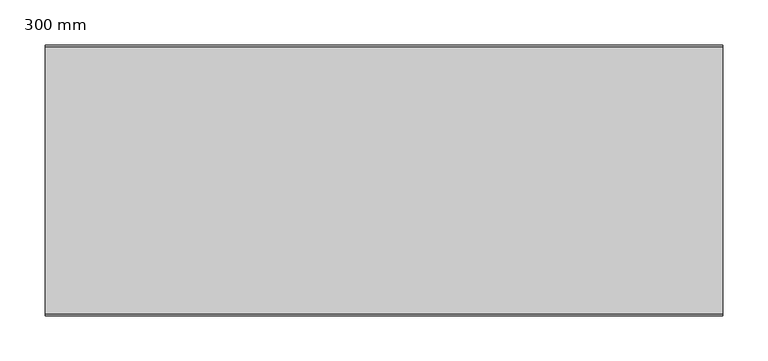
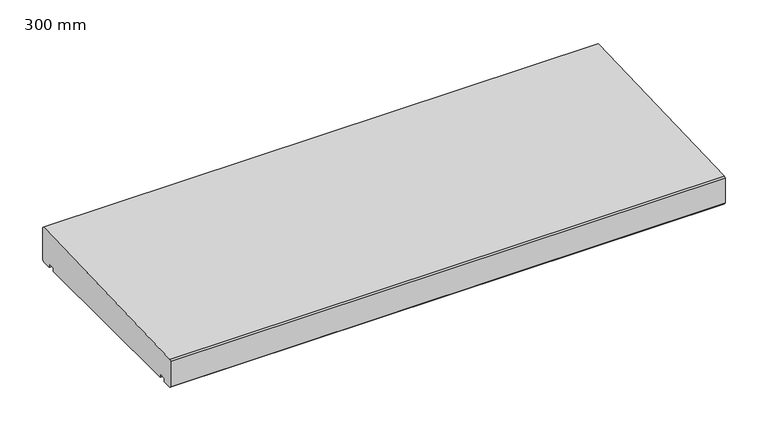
"""IFC4 building model written with IfcOpenShell, lengths in millimetres: proxy geometry, 400_35_NS_afdekker_éénzijdig_afwaterend : 300 mm."""

from ifc_helpers import new_model, si_unit, frame, origin, place, context, project, spatial, polyline, outline, extrude, source, transform, mapped, element, save


def proxy_300_mm_2b8463f3(model_context):
    return source(origin(), model_context, "Body", "SweptSolid", [
        extrude(outline(polyline([(300.0, 2.0), (298.0, 0.0), (285.0, 0.0), (285.0, 5.0), (275.0, 5.0), (275.0, 0.0), (25.0, 0.0), (25.0, 5.0), (15.0, 5.0), (15.0, 0.0), (2.0, 0.0), (0.0, 2.0), (0.0, 38.0), (2.0, 40.0), (298.0, 50.0), (300.0, 48.0), (300.0, 2.0)])), frame((-375.0, 0.0, 0.0), z_axis=(1.0, 0.0, 0.0), x_axis=(0.0, 1.0, 0.0)), (0.0, 0.0, 1.0), 750.0),
    ])


if __name__ == "__main__":
    model = new_model("IFC4")
    model_context = context("Model", 3, world=origin())
    ifc_project = project(units=[si_unit("LENGTHUNIT", "METRE", prefix="MILLI")], contexts=[model_context])
    site = spatial("IfcSite", under=ifc_project)
    building = spatial("IfcBuilding", under=site)
    placement = place(None, origin())
    proxy_300_mm_shape = proxy_300_mm_2b8463f3(model_context)
    element("IfcBuildingElementProxy", 1, Name="400_35_NS_afdekker_éénzijdig_afwaterend : 300 mm", ObjectType="400_35_NS_afdekker_éénzijdig_afwaterend : 300 mm", at=placement, inside=building, context=model_context, shape_type="MappedRepresentation", body=[
        mapped(proxy_300_mm_shape, transform((0.0, 0.0, 0.0), x_axis=(1.0, 0.0, 0.0), y_axis=(0.0, 1.0, 0.0), z_axis=(0.0, 0.0, 1.0))),
    ])
    save(model, "model.ifc")
